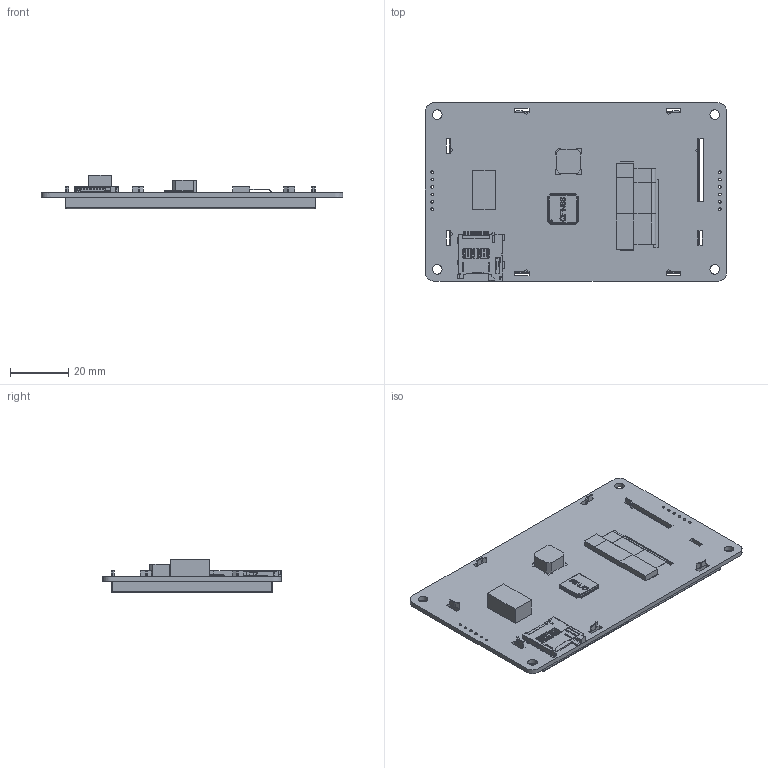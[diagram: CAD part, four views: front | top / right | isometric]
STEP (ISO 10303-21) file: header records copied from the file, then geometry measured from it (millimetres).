
FILE_DESCRIPTION(/* description */ (''),/* implementation_level */ '2;1');
FILE_NAME(/* name */ '',/* time_stamp */ '2023-06-27T18:21:36+08:00',/* author */ (''),/* organization */ (''),/* preprocessor_version */ 'ST-DEVELOPER v11',/* originating_system */ 'SIEMENS PLM Software NX 7.5',/* authorisation */ '');
FILE_SCHEMA (('AP203_CONFIGURATION_CONTROLLED_3D_DESIGN_OF_MECHANICAL_PARTS_AND_ASSEMBLIES_MIM_LF'));
Products named in the file (1): SDWb035T03N-SSJ
Bounding box: 103.3 x 61.1 x 11.6 mm (x, y, z)
Volume: 30701.4 mm3; surface area: 38372 mm2
Topology: 17 solids, 17 shells, 2476 faces, 6981 edges, 4600 vertices
Faces by surface type: plane 2043, cylinder 424, bspline 7, cone 1, extrusion 1
Full cylindrical faces by diameter (mm): 0.9 x12, 3.3 x4
Entity records: 80483 total; most frequent: CARTESIAN_POINT 14530, ORIENTED_EDGE 13928, DIRECTION 12659, EDGE_CURVE 6964, VECTOR 6089, LINE 6088, VERTEX_POINT 4600, AXIS2_PLACEMENT_3D 3285
